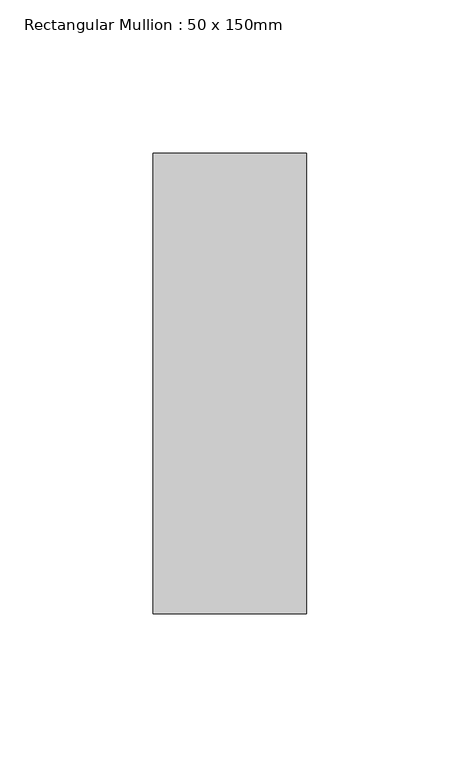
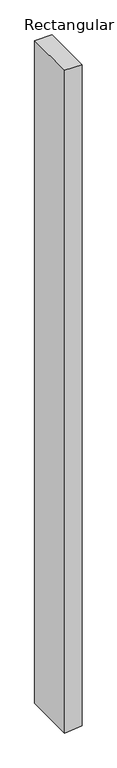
"""IFC4 building model written with IfcOpenShell, lengths in millimetres: member geometry, Rectangular Mullion : 50 x 150mm."""

from ifc_helpers import new_model, si_unit, frame, origin, place, context, project, spatial, polyline, outline, extrude, source, transform, mapped, element, save


def rectangular_mullion_50_x_150mm_965f367d(model_context):
    return source(origin(), model_context, "Body", "SweptSolid", [
        extrude(outline(polyline([(0.0, 25.0), (0.0, -25.0), (-2024.5127936, -25.0), (-2022.5020264, -5.0022633), (-2019.4853068, 25.0), (0.0, 25.0)])), frame((0.0, -75.0, 0.0), z_axis=(0.0, 1.0, 0.0), x_axis=(0.0, 0.0, 1.0)), (0.0, 0.0, 1.0), 150.0),
    ])


if __name__ == "__main__":
    model = new_model("IFC4")
    model_context = context("Model", 3, world=origin())
    ifc_project = project(units=[si_unit("LENGTHUNIT", "METRE", prefix="MILLI")], contexts=[model_context])
    site = spatial("IfcSite", under=ifc_project)
    building = spatial("IfcBuilding", under=site)
    placement = place(None, origin())
    rectangular_mullion_50_x_150mm_shape = rectangular_mullion_50_x_150mm_965f367d(model_context)
    element("IfcMember", 1, ObjectType="Rectangular Mullion : 50 x 150mm", at=placement, inside=building, context=model_context, shape_type="MappedRepresentation", body=[
        mapped(rectangular_mullion_50_x_150mm_shape, transform((0.0, 0.0, 0.0), x_axis=(1.0, 0.0, 0.0), y_axis=(0.0, 1.0, 0.0), z_axis=(0.0, 0.0, 1.0))),
    ])
    save(model, "model.ifc")
